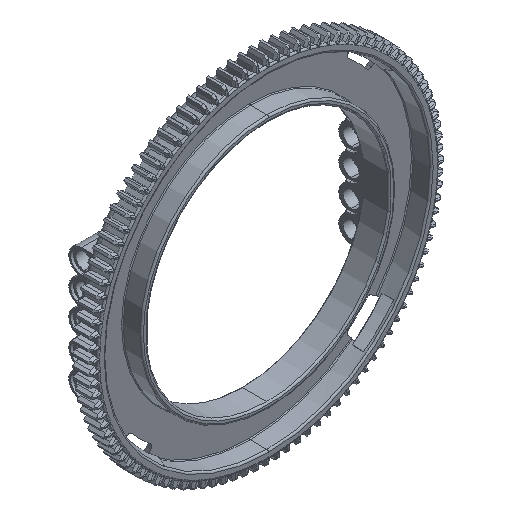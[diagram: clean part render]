
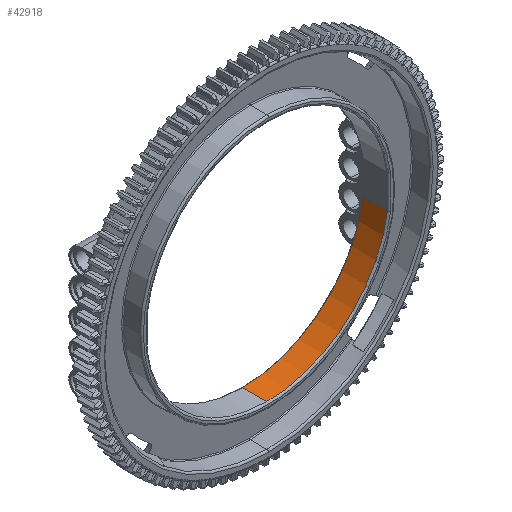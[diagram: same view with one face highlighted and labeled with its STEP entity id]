
A CAD part, isometric view. The second image highlights one B-rep face of the part: STEP entity #42918.
In plain terms, the highlighted cylindrical face has radius 36.346 mm (diameter 72.691 mm), a partial arc.
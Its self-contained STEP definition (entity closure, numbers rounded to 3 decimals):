
#827 = DIRECTION ( 'NONE',  ( 0., 0., 1. ) ) ;
#1361 = CARTESIAN_POINT ( 'NONE',  ( 36., 0.5, -5. ) ) ;
#2188 = CARTESIAN_POINT ( 'NONE',  ( 0., 7.75, -36.346 ) ) ;
#2805 = LINE ( 'NONE', #10395, #29096 ) ;
#3349 = EDGE_LOOP ( 'NONE', ( #11905, #43221, #43177, #21347 ) ) ;
#3816 = CYLINDRICAL_SURFACE ( 'NONE', #45860, 36.346 ) ;
#7747 = FACE_OUTER_BOUND ( 'NONE', #3349, .T. ) ;
#8464 = DIRECTION ( 'NONE',  ( 0., 1., 0. ) ) ;
#10395 = CARTESIAN_POINT ( 'NONE',  ( 0., 8., -36.346 ) ) ;
#11905 = ORIENTED_EDGE ( 'NONE', *, *, #32736, .T. ) ;
#12788 = CARTESIAN_POINT ( 'NONE',  ( 36., 7.75, -5. ) ) ;
#15829 = CARTESIAN_POINT ( 'NONE',  ( 0., 0.5, -36.346 ) ) ;
#17117 = LINE ( 'NONE', #28902, #46737 ) ;
#18907 = CIRCLE ( 'NONE', #43918, 36.346 ) ;
#19373 = CIRCLE ( 'NONE', #35195, 36.346 ) ;
#20507 = EDGE_CURVE ( 'NONE', #33967, #27371, #17117, .T. ) ;
#21347 = ORIENTED_EDGE ( 'NONE', *, *, #20507, .F. ) ;
#23470 = DIRECTION ( 'NONE',  ( 0., -1., 0. ) ) ;
#24386 = EDGE_CURVE ( 'NONE', #28270, #27371, #18907, .T. ) ;
#24419 = DIRECTION ( 'NONE',  ( 0., -1., 0. ) ) ;
#27371 = VERTEX_POINT ( 'NONE', #1361 ) ;
#28270 = VERTEX_POINT ( 'NONE', #15829 ) ;
#28902 = CARTESIAN_POINT ( 'NONE',  ( 36., 8., -5. ) ) ;
#29096 = VECTOR ( 'NONE', #46467, 1000. ) ;
#31778 = DIRECTION ( 'NONE',  ( 0., 0., -1. ) ) ;
#31973 = DIRECTION ( 'NONE',  ( 0., 0., 1. ) ) ;
#32736 = EDGE_CURVE ( 'NONE', #33967, #46088, #19373, .T. ) ;
#33044 = DIRECTION ( 'NONE',  ( 0., -1., 0. ) ) ;
#33967 = VERTEX_POINT ( 'NONE', #12788 ) ;
#35195 = AXIS2_PLACEMENT_3D ( 'NONE', #44484, #8464, #827 ) ;
#42918 = ADVANCED_FACE ( 'NONE', ( #7747 ), #3816, .F. ) ;
#43036 = CARTESIAN_POINT ( 'NONE',  ( 0., 8., 0. ) ) ;
#43177 = ORIENTED_EDGE ( 'NONE', *, *, #24386, .T. ) ;
#43221 = ORIENTED_EDGE ( 'NONE', *, *, #51109, .T. ) ;
#43918 = AXIS2_PLACEMENT_3D ( 'NONE', #44269, #24419, #31973 ) ;
#44269 = CARTESIAN_POINT ( 'NONE',  ( 0., 0.5, 0. ) ) ;
#44484 = CARTESIAN_POINT ( 'NONE',  ( 0., 7.75, 0. ) ) ;
#45860 = AXIS2_PLACEMENT_3D ( 'NONE', #43036, #23470, #31778 ) ;
#46088 = VERTEX_POINT ( 'NONE', #2188 ) ;
#46467 = DIRECTION ( 'NONE',  ( 0., -1., 0. ) ) ;
#46737 = VECTOR ( 'NONE', #33044, 1000. ) ;
#51109 = EDGE_CURVE ( 'NONE', #46088, #28270, #2805, .T. ) ;
